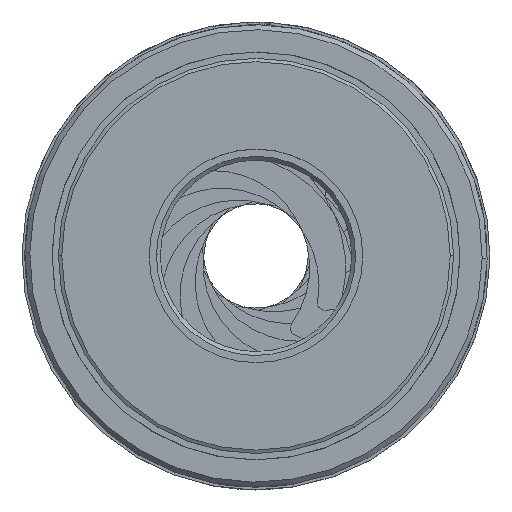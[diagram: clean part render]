
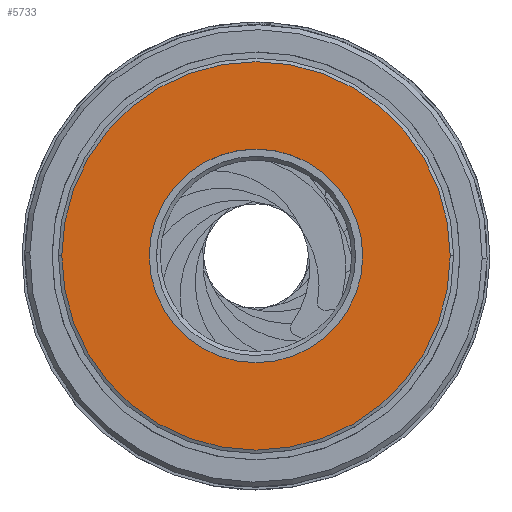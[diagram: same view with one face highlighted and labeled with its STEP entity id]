
A CAD part, top view. The second image highlights one B-rep face of the part: STEP entity #5733.
In plain terms, the highlighted planar face has unit normal (0, 0, 1).
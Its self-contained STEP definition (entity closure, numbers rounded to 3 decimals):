
#404 = CARTESIAN_POINT ( 'NONE',  ( -6.359, -1.148, 10.295 ) ) ;
#659 = FACE_BOUND ( 'NONE', #2755, .T. ) ;
#1333 = VERTEX_POINT ( 'NONE', #36630 ) ;
#2755 = EDGE_LOOP ( 'NONE', ( #26704, #37390 ) ) ;
#5733 = ADVANCED_FACE ( 'NONE', ( #43788, #659 ), #36018, .T. ) ;
#8682 = AXIS2_PLACEMENT_3D ( 'NONE', #37039, #42905, #45294 ) ;
#9809 = AXIS2_PLACEMENT_3D ( 'NONE', #18213, #13566, #33812 ) ;
#10697 = AXIS2_PLACEMENT_3D ( 'NONE', #44947, #48826, #36438 ) ;
#11964 = CARTESIAN_POINT ( 'NONE',  ( -20.329, -1.148, 10.295 ) ) ;
#13566 = DIRECTION ( 'NONE',  ( 0., 0., -1. ) ) ;
#13688 = EDGE_CURVE ( 'NONE', #44812, #42105, #33001, .T. ) ;
#14238 = ORIENTED_EDGE ( 'NONE', *, *, #14616, .T. ) ;
#14616 = EDGE_CURVE ( 'NONE', #15802, #1333, #18115, .T. ) ;
#15802 = VERTEX_POINT ( 'NONE', #21707 ) ;
#17034 = EDGE_LOOP ( 'NONE', ( #49409, #14238 ) ) ;
#18115 = CIRCLE ( 'NONE', #10697, 25.405 ) ;
#18213 = CARTESIAN_POINT ( 'NONE',  ( -6.359, -1.148, 10.295 ) ) ;
#19427 = AXIS2_PLACEMENT_3D ( 'NONE', #32772, #25222, #49098 ) ;
#21707 = CARTESIAN_POINT ( 'NONE',  ( 19.045, -1.148, 10.295 ) ) ;
#25222 = DIRECTION ( 'NONE',  ( 0., 0., 1. ) ) ;
#26704 = ORIENTED_EDGE ( 'NONE', *, *, #46027, .T. ) ;
#27782 = CIRCLE ( 'NONE', #8682, 13.97 ) ;
#32376 = DIRECTION ( 'NONE',  ( 1., 0., 0. ) ) ;
#32772 = CARTESIAN_POINT ( 'NONE',  ( -6.359, -1.148, 10.295 ) ) ;
#32851 = AXIS2_PLACEMENT_3D ( 'NONE', #404, #40168, #32376 ) ;
#33001 = CIRCLE ( 'NONE', #9809, 13.97 ) ;
#33812 = DIRECTION ( 'NONE',  ( -1., 0., 0. ) ) ;
#36018 = PLANE ( 'NONE',  #32851 ) ;
#36438 = DIRECTION ( 'NONE',  ( 1., 0., 0. ) ) ;
#36630 = CARTESIAN_POINT ( 'NONE',  ( -31.764, -1.148, 10.295 ) ) ;
#37039 = CARTESIAN_POINT ( 'NONE',  ( -6.359, -1.148, 10.295 ) ) ;
#37390 = ORIENTED_EDGE ( 'NONE', *, *, #13688, .T. ) ;
#40021 = CIRCLE ( 'NONE', #19427, 25.405 ) ;
#40168 = DIRECTION ( 'NONE',  ( 0., 0., 1. ) ) ;
#42105 = VERTEX_POINT ( 'NONE', #11964 ) ;
#42905 = DIRECTION ( 'NONE',  ( 0., 0., -1. ) ) ;
#43788 = FACE_OUTER_BOUND ( 'NONE', #17034, .T. ) ;
#44318 = EDGE_CURVE ( 'NONE', #1333, #15802, #40021, .T. ) ;
#44812 = VERTEX_POINT ( 'NONE', #45281 ) ;
#44947 = CARTESIAN_POINT ( 'NONE',  ( -6.359, -1.148, 10.295 ) ) ;
#45281 = CARTESIAN_POINT ( 'NONE',  ( 7.611, -1.148, 10.295 ) ) ;
#45294 = DIRECTION ( 'NONE',  ( -1., 0., 0. ) ) ;
#46027 = EDGE_CURVE ( 'NONE', #42105, #44812, #27782, .T. ) ;
#48826 = DIRECTION ( 'NONE',  ( 0., 0., 1. ) ) ;
#49098 = DIRECTION ( 'NONE',  ( 1., 0., 0. ) ) ;
#49409 = ORIENTED_EDGE ( 'NONE', *, *, #44318, .T. ) ;
